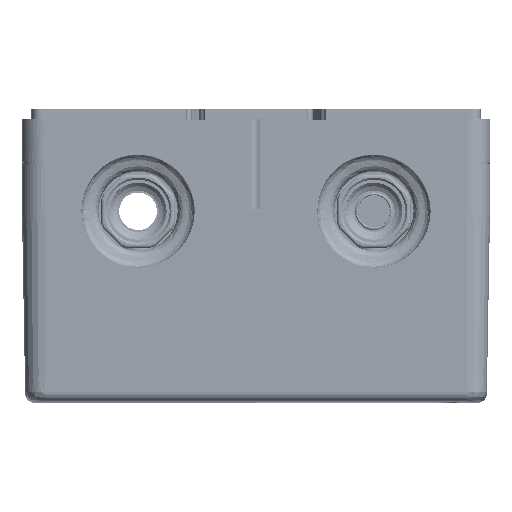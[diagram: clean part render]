
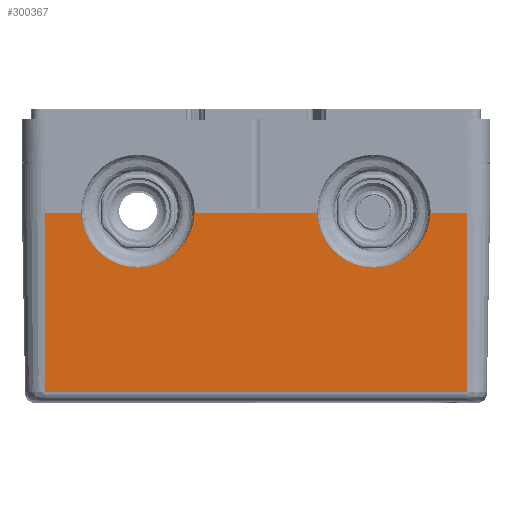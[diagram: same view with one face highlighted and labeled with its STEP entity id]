
A CAD part, top view. The second image highlights one B-rep face of the part: STEP entity #300367.
In plain terms, the highlighted planar face has unit normal (0, -0.018, 1) as drawn and (0, -1, 0.017) by its records, which use the part's own axes.
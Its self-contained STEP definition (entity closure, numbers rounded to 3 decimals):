
#8815 = DIRECTION ( 'NONE',  ( 1., 0., 0. ) ) ;
#11980 = VERTEX_POINT ( 'NONE', #479081 ) ;
#12984 = CARTESIAN_POINT ( 'NONE',  ( -484.537, -53.32, 95.087 ) ) ;
#14255 = CARTESIAN_POINT ( 'NONE',  ( -630.852, -53.996, 56.343 ) ) ;
#24202 = VERTEX_POINT ( 'NONE', #513980 ) ;
#48275 = PLANE ( 'NONE',  #656387 ) ;
#51037 = CARTESIAN_POINT ( 'NONE',  ( -504.055, -54.98, 0. ) ) ;
#59177 = VECTOR ( 'NONE', #134690, 1000. ) ;
#65320 = CARTESIAN_POINT ( 'NONE',  ( -689.021, -54.98, 0. ) ) ;
#81612 = CARTESIAN_POINT ( 'NONE',  ( -708.537, -53.32, 95.087 ) ) ;
#91995 = CARTESIAN_POINT ( 'NONE',  ( -708.537, -54.98, 0. ) ) ;
#96896 = CARTESIAN_POINT ( 'NONE',  ( -484.537, -54.98, 0. ) ) ;
#110476 = ORIENTED_EDGE ( 'NONE', *, *, #201432, .T. ) ;
#114544 = CARTESIAN_POINT ( 'NONE',  ( -484.537, -53.32, 95.087 ) ) ;
#115697 = EDGE_CURVE ( 'NONE', #465698, #174504, #648715, .T. ) ;
#116046 = DIRECTION ( 'NONE',  ( 0., -1., 0.017 ) ) ;
#134690 = DIRECTION ( 'NONE',  ( 0., 0.017, 1. ) ) ;
#138796 = CARTESIAN_POINT ( 'NONE',  ( -689.021, -54.98, 0. ) ) ;
#151431 = EDGE_CURVE ( 'NONE', #24202, #567673, #299266, .T. ) ;
#170735 = ORIENTED_EDGE ( 'NONE', *, *, #179799, .T. ) ;
#174504 = VERTEX_POINT ( 'NONE', #12984 ) ;
#179799 = EDGE_CURVE ( 'NONE', #312433, #241839, #267361, .T. ) ;
#181561 = EDGE_CURVE ( 'NONE', #24202, #238459, #240674, .T. ) ;
#194108 = CARTESIAN_POINT ( 'NONE',  ( -505.858, -53.996, 56.331 ) ) ;
#201432 = EDGE_CURVE ( 'NONE', #174504, #567673, #373141, .T. ) ;
#230895 = ORIENTED_EDGE ( 'NONE', *, *, #151431, .F. ) ;
#237329 = CARTESIAN_POINT ( 'NONE',  ( -484.537, -54.98, 0. ) ) ;
#238459 = VERTEX_POINT ( 'NONE', #138796 ) ;
#240674 = LINE ( 'NONE', #237329, #620316 ) ;
#241839 = VERTEX_POINT ( 'NONE', #548279 ) ;
#265734 = DIRECTION ( 'NONE',  ( 0., -0.017, -1. ) ) ;
#267361 = LINE ( 'NONE', #475113, #443347 ) ;
#270072 = EDGE_CURVE ( 'NONE', #11980, #465698, #388048, .T. ) ;
#272994 = VECTOR ( 'NONE', #343579, 1000. ) ;
#282499 = CARTESIAN_POINT ( 'NONE',  ( -484.537, -54.98, 0. ) ) ;
#299266 = LINE ( 'NONE', #91995, #272994 ) ;
#299991 = FACE_OUTER_BOUND ( 'NONE', #489830, .T. ) ;
#300367 = ADVANCED_FACE ( 'NONE', ( #299991 ), #48275, .T. ) ;
#312433 = VERTEX_POINT ( 'NONE', #590899 ) ;
#316862 = CARTESIAN_POINT ( 'NONE',  ( -484.537, -54.98, 0. ) ) ;
#325300 = DIRECTION ( 'NONE',  ( -1., 0., 0. ) ) ;
#326765 = EDGE_CURVE ( 'NONE', #241839, #11980, #448191, .T. ) ;
#330188 = ORIENTED_EDGE ( 'NONE', *, *, #518834, .T. ) ;
#343579 = DIRECTION ( 'NONE',  ( 0., 0.017, 1. ) ) ;
#373141 = LINE ( 'NONE', #114544, #624371 ) ;
#378344 = CARTESIAN_POINT ( 'NONE',  ( -687.223, -53.996, 56.343 ) ) ;
#388048 = LINE ( 'NONE', #282499, #579888 ) ;
#393276 = CARTESIAN_POINT ( 'NONE',  ( -484.537, -54.98, 0. ) ) ;
#413477 = CARTESIAN_POINT ( 'NONE',  ( -629.054, -54.98, 0. ) ) ;
#443347 = VECTOR ( 'NONE', #8815, 1000. ) ;
#448191 =( BOUNDED_CURVE ( )  B_SPLINE_CURVE ( 3, ( #514050, #507334, #194108, #51037 ),
 .UNSPECIFIED., .F., .F. ) 
 B_SPLINE_CURVE_WITH_KNOTS ( ( 4, 4 ),
 ( 4.744, 7.822 ),
 .UNSPECIFIED. ) 
 CURVE ( )  GEOMETRIC_REPRESENTATION_ITEM ( )  RATIONAL_B_SPLINE_CURVE ( ( 1., 0.355, 0.355, 1. ) ) 
 REPRESENTATION_ITEM ( '' )  );
#457979 =( BOUNDED_CURVE ( )  B_SPLINE_CURVE ( 3, ( #65320, #378344, #14255, #413477 ),
 .UNSPECIFIED., .F., .T. ) 
 B_SPLINE_CURVE_WITH_KNOTS ( ( 4, 4 ),
 ( 4.744, 7.822 ),
 .UNSPECIFIED. ) 
 CURVE ( )  GEOMETRIC_REPRESENTATION_ITEM ( )  RATIONAL_B_SPLINE_CURVE ( ( 1., 0.355, 0.355, 1. ) ) 
 REPRESENTATION_ITEM ( '' )  );
#465698 = VERTEX_POINT ( 'NONE', #96896 ) ;
#475113 = CARTESIAN_POINT ( 'NONE',  ( -484.537, -54.98, 0. ) ) ;
#479081 = CARTESIAN_POINT ( 'NONE',  ( -504.055, -54.98, 0. ) ) ;
#489830 = EDGE_LOOP ( 'NONE', ( #170735, #606944, #598060, #638010, #110476, #230895, #600125, #330188 ) ) ;
#502851 = DIRECTION ( 'NONE',  ( 1., 0., 0. ) ) ;
#507334 = CARTESIAN_POINT ( 'NONE',  ( -562.218, -53.996, 56.331 ) ) ;
#513980 = CARTESIAN_POINT ( 'NONE',  ( -708.537, -54.98, 0. ) ) ;
#514050 = CARTESIAN_POINT ( 'NONE',  ( -564.021, -54.98, 0. ) ) ;
#518834 = EDGE_CURVE ( 'NONE', #238459, #312433, #457979, .T. ) ;
#548279 = CARTESIAN_POINT ( 'NONE',  ( -564.021, -54.98, 0. ) ) ;
#567673 = VERTEX_POINT ( 'NONE', #81612 ) ;
#579888 = VECTOR ( 'NONE', #582418, 1000. ) ;
#582418 = DIRECTION ( 'NONE',  ( 1., 0., 0. ) ) ;
#590899 = CARTESIAN_POINT ( 'NONE',  ( -629.054, -54.98, 0. ) ) ;
#598060 = ORIENTED_EDGE ( 'NONE', *, *, #270072, .T. ) ;
#600125 = ORIENTED_EDGE ( 'NONE', *, *, #181561, .T. ) ;
#606944 = ORIENTED_EDGE ( 'NONE', *, *, #326765, .T. ) ;
#620316 = VECTOR ( 'NONE', #502851, 1000. ) ;
#624371 = VECTOR ( 'NONE', #325300, 1000. ) ;
#638010 = ORIENTED_EDGE ( 'NONE', *, *, #115697, .T. ) ;
#648715 = LINE ( 'NONE', #393276, #59177 ) ;
#656387 = AXIS2_PLACEMENT_3D ( 'NONE', #316862, #116046, #265734 ) ;
